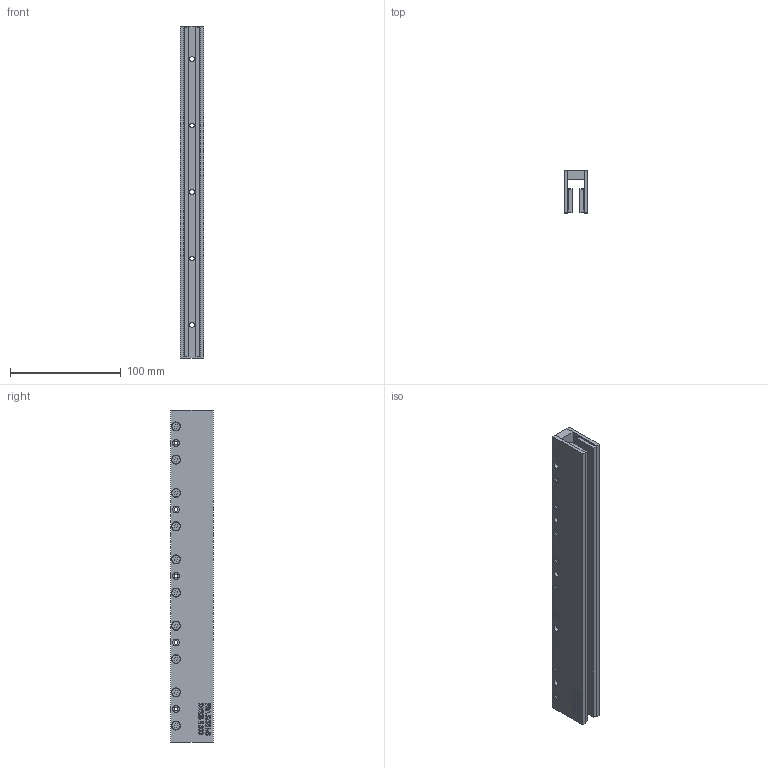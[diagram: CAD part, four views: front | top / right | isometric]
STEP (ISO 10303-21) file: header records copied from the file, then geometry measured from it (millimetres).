
FILE_DESCRIPTION (( 'STEP AP214' ), '1' );
FILE_NAME ('DX20B-TL300.STEP', '2016-05-11T08:47:54', ( '' ), ( '' ), 'SwSTEP 2.0', 'SolidWorks 2015', '' );
FILE_SCHEMA (( 'AUTOMOTIVE_DESIGN' ));
Length unit declared in the file: millimetre
Products named in the file (5): DX20B-0000-001_CUSTOMER_TL300; M4X8 BN1206; DX20B-TL300-002_TL300; DX20B-TL300-001_TL300; DX20B-TL300
Assembly tree (25 placements, depth 2):
  DX20B-TL300
    DX20B-TL300-001_TL300
    DX20B-TL300-002_TL300  x2
    M4X8 BN1206  x20
    DX20B-0000-001_CUSTOMER_TL300  x2
Bounding box: 21.15 x 38.1 x 299.7 mm (x, y, z)
Volume: 155644 mm3; surface area: 101607.4 mm2
Topology: 25 solids, 25 shells, 1168 faces, 2876 edges, 1864 vertices
Faces by surface type: plane 572, cylinder 254, bspline 246, cone 40, torus 40, sphere 16
Entity records: 22079 total; most frequent: CARTESIAN_POINT 10652, ORIENTED_EDGE 2338, DIRECTION 1831, EDGE_CURVE 1169, VERTEX_POINT 770, LINE 685, VECTOR 685, EDGE_LOOP 573
